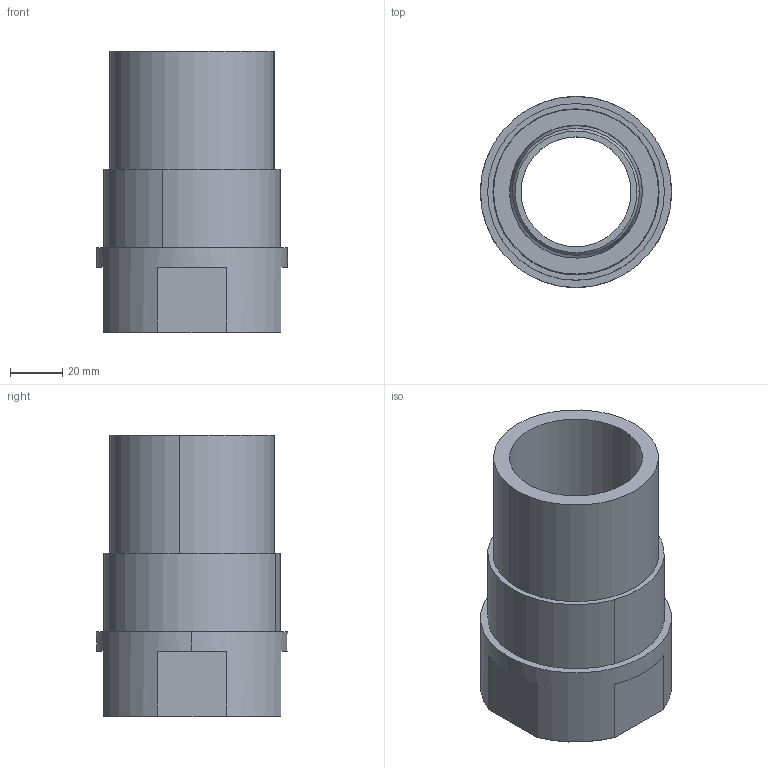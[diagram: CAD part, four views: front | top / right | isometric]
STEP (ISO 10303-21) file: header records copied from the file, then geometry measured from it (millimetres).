
FILE_DESCRIPTION (( 'STEP AP214' ), '1' );
FILE_NAME ('KP_C17-63-54F.step', '2012-09-03T10:40:31', ( 'robinj' ), ( 'Microsoft' ), 'SwSTEP 2.0', 'SolidWorks 2012', '' );
FILE_SCHEMA (( 'AUTOMOTIVE_DESIGN' ));
Length unit declared in the file: millimetre
Products named in the file (1): KP_C17-63-54F
Bounding box: 73 x 73 x 107.5 mm (x, y, z)
Volume: 189272.8 mm3; surface area: 68283.8 mm2
Topology: 3 solids, 3 shells, 58 faces, 128 edges, 80 vertices
Faces by surface type: cylinder 20, plane 18, cone 10, torus 10
Entity records: 2376 total; most frequent: CARTESIAN_POINT 339, DIRECTION 312, ORIENTED_EDGE 256, AXIS2_PLACEMENT_3D 133, EDGE_CURVE 128, VERTEX_POINT 80, CIRCLE 74, EDGE_LOOP 68
